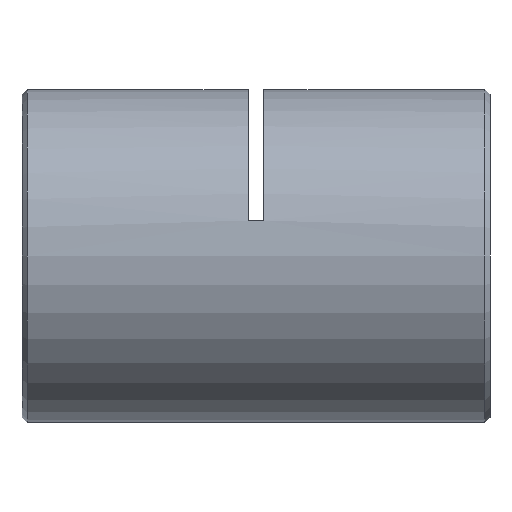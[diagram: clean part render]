
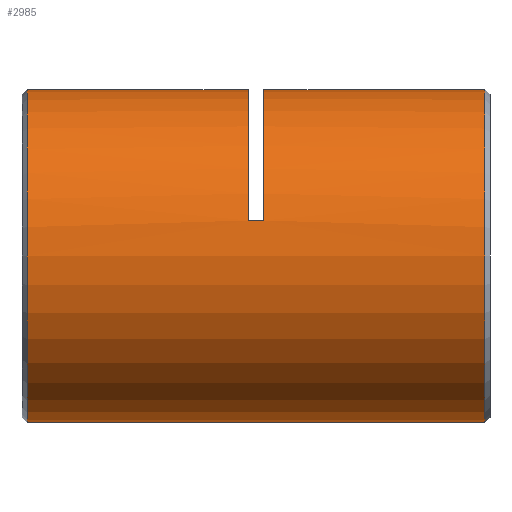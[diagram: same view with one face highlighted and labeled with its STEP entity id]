
A CAD part, left-side view. The second image highlights one B-rep face of the part: STEP entity #2985.
In plain terms, the highlighted cylindrical face has radius 16 mm (diameter 32 mm), a partial arc.
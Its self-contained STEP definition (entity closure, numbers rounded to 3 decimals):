
#108 = LINE ( 'NONE', #1977, #2683 ) ;
#112 = DIRECTION ( 'NONE',  ( 0., 1., 0. ) ) ;
#125 = DIRECTION ( 'NONE',  ( 0., 0., -1. ) ) ;
#153 = CARTESIAN_POINT ( 'NONE',  ( 0., 44.75, -16. ) ) ;
#212 = CARTESIAN_POINT ( 'NONE',  ( 0., 22., 16. ) ) ;
#255 = DIRECTION ( 'NONE',  ( 0., 0., 1. ) ) ;
#301 = EDGE_CURVE ( 'NONE', #6368, #4118, #4840, .T. ) ;
#418 = CARTESIAN_POINT ( 'NONE',  ( 0., 23.5, 16. ) ) ;
#439 = CARTESIAN_POINT ( 'NONE',  ( 0., 0., -16. ) ) ;
#456 = VECTOR ( 'NONE', #4951, 1000. ) ;
#468 = ORIENTED_EDGE ( 'NONE', *, *, #2852, .T. ) ;
#530 = DIRECTION ( 'NONE',  ( 0., 1., 0. ) ) ;
#586 = VERTEX_POINT ( 'NONE', #5333 ) ;
#594 = VERTEX_POINT ( 'NONE', #2326 ) ;
#677 = AXIS2_PLACEMENT_3D ( 'NONE', #4957, #530, #2922 ) ;
#748 = EDGE_CURVE ( 'NONE', #594, #2714, #1603, .T. ) ;
#788 = CIRCLE ( 'NONE', #2028, 16. ) ;
#886 = LINE ( 'NONE', #2212, #5634 ) ;
#983 = LINE ( 'NONE', #439, #456 ) ;
#997 = AXIS2_PLACEMENT_3D ( 'NONE', #2583, #3664, #255 ) ;
#1033 = DIRECTION ( 'NONE',  ( 0., 1., 0. ) ) ;
#1046 = CARTESIAN_POINT ( 'NONE',  ( 0., 0.75, -16. ) ) ;
#1165 = DIRECTION ( 'NONE',  ( 0., 0., 1. ) ) ;
#1464 = CIRCLE ( 'NONE', #5180, 16. ) ;
#1504 = VERTEX_POINT ( 'NONE', #153 ) ;
#1603 = CIRCLE ( 'NONE', #997, 16. ) ;
#1828 = ORIENTED_EDGE ( 'NONE', *, *, #3413, .T. ) ;
#1914 = ORIENTED_EDGE ( 'NONE', *, *, #2702, .T. ) ;
#1977 = CARTESIAN_POINT ( 'NONE',  ( -15.632, 22.75, 3.413 ) ) ;
#2012 = ORIENTED_EDGE ( 'NONE', *, *, #748, .F. ) ;
#2028 = AXIS2_PLACEMENT_3D ( 'NONE', #4056, #112, #1165 ) ;
#2212 = CARTESIAN_POINT ( 'NONE',  ( 0., 0., 16. ) ) ;
#2275 = CARTESIAN_POINT ( 'NONE',  ( 0., 44.75, 16. ) ) ;
#2283 = VECTOR ( 'NONE', #1033, 1000. ) ;
#2319 = EDGE_CURVE ( 'NONE', #2495, #2811, #3480, .T. ) ;
#2326 = CARTESIAN_POINT ( 'NONE',  ( -15.632, 22., 3.413 ) ) ;
#2456 = DIRECTION ( 'NONE',  ( 0., 1., 0. ) ) ;
#2495 = VERTEX_POINT ( 'NONE', #418 ) ;
#2583 = CARTESIAN_POINT ( 'NONE',  ( 0., 22., 0. ) ) ;
#2683 = VECTOR ( 'NONE', #2456, 1000. ) ;
#2702 = EDGE_CURVE ( 'NONE', #2811, #1504, #1464, .T. ) ;
#2714 = VERTEX_POINT ( 'NONE', #212 ) ;
#2811 = VERTEX_POINT ( 'NONE', #2275 ) ;
#2852 = EDGE_CURVE ( 'NONE', #4118, #2714, #886, .T. ) ;
#2858 = DIRECTION ( 'NONE',  ( 0., 1., 0. ) ) ;
#2922 = DIRECTION ( 'NONE',  ( 0., 0., 1. ) ) ;
#2985 = ADVANCED_FACE ( 'NONE', ( #3911 ), #4829, .T. ) ;
#3153 = EDGE_LOOP ( 'NONE', ( #3479, #6087, #468, #2012, #4449, #1828, #3649, #1914 ) ) ;
#3204 = DIRECTION ( 'NONE',  ( 0., 1., 0. ) ) ;
#3372 = DIRECTION ( 'NONE',  ( 0., 0., 1. ) ) ;
#3413 = EDGE_CURVE ( 'NONE', #586, #2495, #788, .T. ) ;
#3479 = ORIENTED_EDGE ( 'NONE', *, *, #5085, .F. ) ;
#3480 = LINE ( 'NONE', #5456, #2283 ) ;
#3649 = ORIENTED_EDGE ( 'NONE', *, *, #2319, .T. ) ;
#3664 = DIRECTION ( 'NONE',  ( 0., 1., 0. ) ) ;
#3911 = FACE_OUTER_BOUND ( 'NONE', #3153, .T. ) ;
#4056 = CARTESIAN_POINT ( 'NONE',  ( 0., 23.5, 0. ) ) ;
#4118 = VERTEX_POINT ( 'NONE', #5979 ) ;
#4266 = EDGE_CURVE ( 'NONE', #594, #586, #108, .T. ) ;
#4302 = AXIS2_PLACEMENT_3D ( 'NONE', #5528, #2858, #3372 ) ;
#4449 = ORIENTED_EDGE ( 'NONE', *, *, #4266, .T. ) ;
#4829 = CYLINDRICAL_SURFACE ( 'NONE', #677, 16. ) ;
#4840 = CIRCLE ( 'NONE', #4302, 16. ) ;
#4951 = DIRECTION ( 'NONE',  ( 0., 1., 0. ) ) ;
#4957 = CARTESIAN_POINT ( 'NONE',  ( 0., 0., 0. ) ) ;
#5085 = EDGE_CURVE ( 'NONE', #6368, #1504, #983, .T. ) ;
#5088 = DIRECTION ( 'NONE',  ( 0., -1., 0. ) ) ;
#5180 = AXIS2_PLACEMENT_3D ( 'NONE', #6084, #5088, #125 ) ;
#5333 = CARTESIAN_POINT ( 'NONE',  ( -15.632, 23.5, 3.413 ) ) ;
#5456 = CARTESIAN_POINT ( 'NONE',  ( 0., 0., 16. ) ) ;
#5528 = CARTESIAN_POINT ( 'NONE',  ( 0., 0.75, 0. ) ) ;
#5634 = VECTOR ( 'NONE', #3204, 1000. ) ;
#5979 = CARTESIAN_POINT ( 'NONE',  ( 0., 0.75, 16. ) ) ;
#6084 = CARTESIAN_POINT ( 'NONE',  ( 0., 44.75, 0. ) ) ;
#6087 = ORIENTED_EDGE ( 'NONE', *, *, #301, .T. ) ;
#6368 = VERTEX_POINT ( 'NONE', #1046 ) ;
